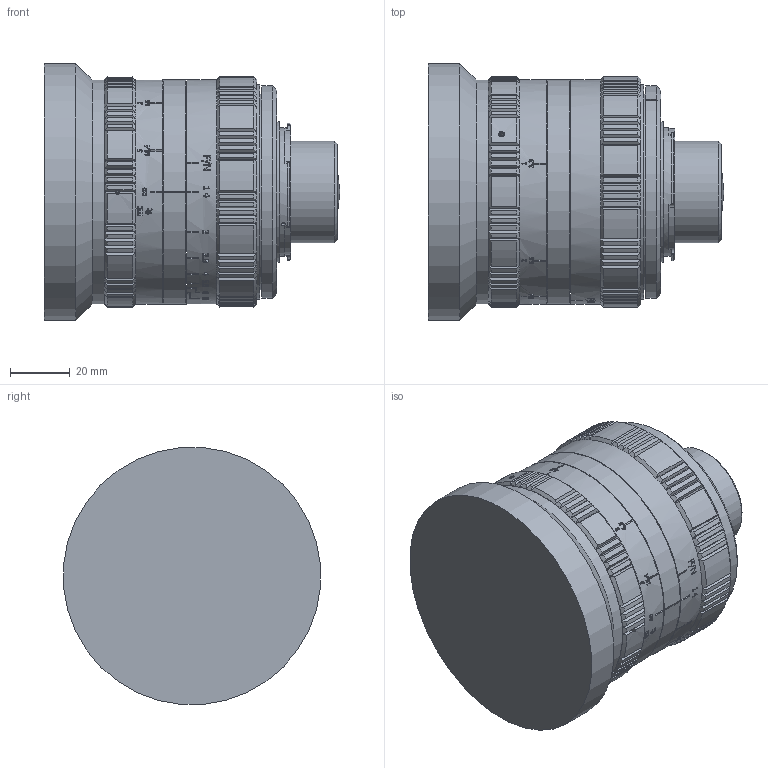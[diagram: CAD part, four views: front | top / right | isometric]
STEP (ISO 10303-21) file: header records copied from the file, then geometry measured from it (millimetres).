
FILE_DESCRIPTION((''),'2;1');
FILE_NAME('\\10.0.0.209\Doc Produ\Meccaniche\STP\A_2008\C0808\C0808_000\C0808_002.stp','2014-04-28T11:05:34',('mcilia'),(''),'Autodesk Inventor 2010','Autodesk Inventor 2010','');
FILE_SCHEMA(('AUTOMOTIVE_DESIGN { 1 0 10303 214 1 1 1 1 }'));
Length unit declared in the file: millimetre
Products named in the file (2): C0808_002_000 (Livello di dettaglio sostituto1); C0808_002
Assembly tree (1 placements, depth 2):
  C0808_002_000 (Livello di dettaglio sostituto1)
    C0808_002
Bounding box: 98.63 x 85.68 x 85.68 mm (x, y, z)
Surface area: 73563.7 mm2 (no closed solid volume)
Topology: 0 solids, 27 shells, 645 faces, 2140 edges, 1507 vertices
Faces by surface type: plane 257, cone 228, cylinder 146, bspline 13, sphere 1
Full cylindrical faces by diameter (mm): 1.183 x1, 2 x1, 30 x1, 34 x1, 43 x1, 47 x1, 65.5 x1, 71.5 x1, 75 x3, 86 x1
Entity records: 32871 total; most frequent: CARTESIAN_POINT 15317, ORIENTED_EDGE 3381, DIRECTION 3294, EDGE_CURVE 2108, VERTEX_POINT 1499, AXIS2_PLACEMENT_3D 1334, EDGE_LOOP 729, CIRCLE 687
